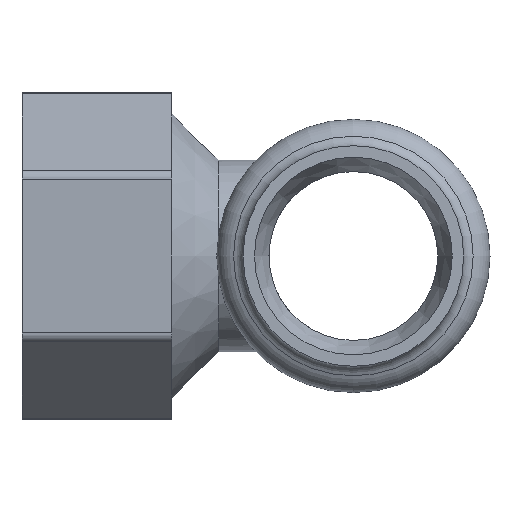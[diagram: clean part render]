
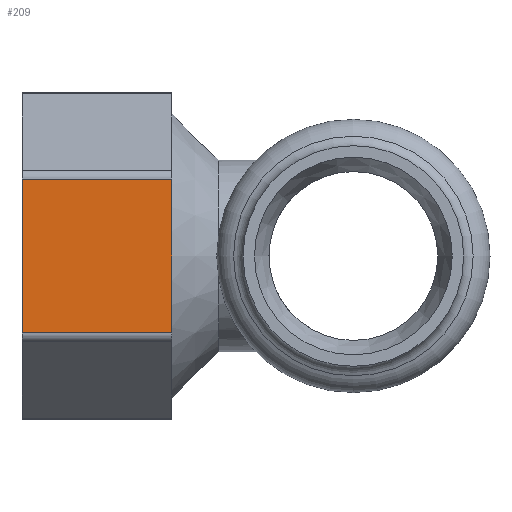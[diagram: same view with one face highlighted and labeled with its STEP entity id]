
A CAD part, left-side view. The second image highlights one B-rep face of the part: STEP entity #209.
In plain terms, the highlighted planar face has unit normal (-1, 0, 0).
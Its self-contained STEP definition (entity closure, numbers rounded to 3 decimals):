
#112=FACE_OUTER_BOUND('',#447,.T.);
#158=PLANE('',#967);
#209=ADVANCED_FACE('',(#112),#158,.T.);
#447=EDGE_LOOP('',(#602,#603,#604,#605,#606));
#602=ORIENTED_EDGE('',*,*,#793,.T.);
#603=ORIENTED_EDGE('',*,*,#794,.T.);
#604=ORIENTED_EDGE('',*,*,#757,.F.);
#605=ORIENTED_EDGE('',*,*,#795,.T.);
#606=ORIENTED_EDGE('',*,*,#770,.T.);
#681=VERTEX_POINT('',#1396);
#684=VERTEX_POINT('',#1404);
#685=VERTEX_POINT('',#1405);
#697=VERTEX_POINT('',#1542);
#707=VERTEX_POINT('',#1584);
#757=EDGE_CURVE('',#684,#685,#802,.T.);
#770=EDGE_CURVE('',#697,#681,#808,.T.);
#793=EDGE_CURVE('',#681,#707,#826,.T.);
#794=EDGE_CURVE('',#707,#685,#827,.T.);
#795=EDGE_CURVE('',#684,#697,#828,.T.);
#802=LINE('',#1403,#834);
#808=LINE('',#1541,#840);
#826=LINE('',#1583,#858);
#827=LINE('',#1585,#859);
#828=LINE('',#1586,#860);
#834=VECTOR('',#1135,1.);
#840=VECTOR('',#1163,1.);
#858=VECTOR('',#1209,1.);
#859=VECTOR('',#1210,1.);
#860=VECTOR('',#1211,1.);
#967=AXIS2_PLACEMENT_3D('',#1587,#1212,#1213);
#1135=DIRECTION('',(0.,0.,1.));
#1163=DIRECTION('',(0.,0.,1.));
#1209=DIRECTION('',(0.,0.,1.));
#1210=DIRECTION('',(0.,1.,0.));
#1211=DIRECTION('',(0.,-1.,0.));
#1212=DIRECTION('',(-1.,0.,0.));
#1213=DIRECTION('',(0.,-1.,0.));
#1396=CARTESIAN_POINT('',(-14.9,18.941,0.));
#1403=CARTESIAN_POINT('',(-14.9,34.541,-8.603));
#1404=CARTESIAN_POINT('',(-14.9,34.541,-8.025));
#1405=CARTESIAN_POINT('',(-14.9,34.541,8.025));
#1541=CARTESIAN_POINT('',(-14.9,18.941,-8.603));
#1542=CARTESIAN_POINT('',(-14.9,18.941,-8.025));
#1583=CARTESIAN_POINT('',(-14.9,18.941,-8.603));
#1584=CARTESIAN_POINT('',(-14.9,18.941,8.025));
#1585=CARTESIAN_POINT('',(-14.9,18.941,8.025));
#1586=CARTESIAN_POINT('',(-14.9,18.941,-8.025));
#1587=CARTESIAN_POINT('',(-14.9,18.941,-8.603));
